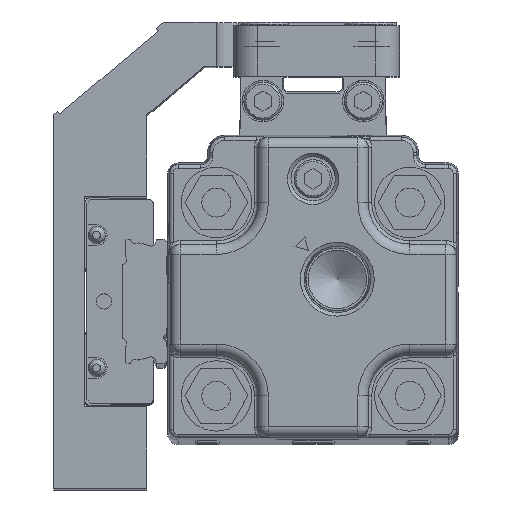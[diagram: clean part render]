
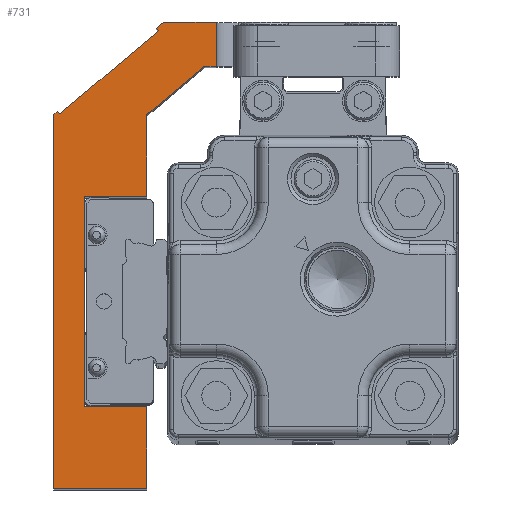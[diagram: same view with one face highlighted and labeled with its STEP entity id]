
A CAD part, top view. The second image highlights one B-rep face of the part: STEP entity #731.
In plain terms, the highlighted planar face has unit normal (0, 0, 1).
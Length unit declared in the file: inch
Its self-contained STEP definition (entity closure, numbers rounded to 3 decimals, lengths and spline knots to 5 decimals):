
#731 = ADVANCED_FACE ( 'NONE', ( #3522 ), #43899, .F. ) ;
#746 = ORIENTED_EDGE ( 'NONE', *, *, #33221, .F. ) ;
#1067 = VECTOR ( 'NONE', #40331, 39.37008 ) ;
#1228 = LINE ( 'NONE', #27089, #16177 ) ;
#1313 = EDGE_LOOP ( 'NONE', ( #34958, #32871, #23349, #6613, #5635, #10449, #38573, #37243, #6528, #30139, #29870, #24048, #37004, #746, #32143, #28993 ) ) ;
#1503 = VECTOR ( 'NONE', #17119, 39.37008 ) ;
#1643 = CARTESIAN_POINT ( 'NONE',  ( 1.047, 0.217, 2.65748 ) ) ;
#1656 = CARTESIAN_POINT ( 'NONE',  ( 1.55371, -0.38687, 2.65748 ) ) ;
#1949 = DIRECTION ( 'NONE',  ( 1., 0., 0. ) ) ;
#2776 = DIRECTION ( 'NONE',  ( 1., 0., 0. ) ) ;
#3058 = EDGE_CURVE ( 'NONE', #31763, #34768, #26482, .T. ) ;
#3522 = FACE_OUTER_BOUND ( 'NONE', #1313, .T. ) ;
#5292 = VERTEX_POINT ( 'NONE', #1656 ) ;
#5635 = ORIENTED_EDGE ( 'NONE', *, *, #35392, .F. ) ;
#5716 = VERTEX_POINT ( 'NONE', #34918 ) ;
#5752 = DIRECTION ( 'NONE',  ( -0.643, 0.766, 0. ) ) ;
#5869 = VERTEX_POINT ( 'NONE', #43588 ) ;
#5893 = LINE ( 'NONE', #10460, #19549 ) ;
#6515 = DIRECTION ( 'NONE',  ( 0., -1., 0. ) ) ;
#6528 = ORIENTED_EDGE ( 'NONE', *, *, #14922, .F. ) ;
#6539 = VECTOR ( 'NONE', #16998, 39.37008 ) ;
#6613 = ORIENTED_EDGE ( 'NONE', *, *, #28849, .T. ) ;
#6785 = VERTEX_POINT ( 'NONE', #29708 ) ;
#7608 = CARTESIAN_POINT ( 'NONE',  ( -0.59791, 0.02, 2.65748 ) ) ;
#7820 = VECTOR ( 'NONE', #21715, 39.37008 ) ;
#8353 = DIRECTION ( 'NONE',  ( 0., -1., 0. ) ) ;
#8832 = VERTEX_POINT ( 'NONE', #36804 ) ;
#10170 = CARTESIAN_POINT ( 'NONE',  ( 1.06305, -0.334, 2.65748 ) ) ;
#10347 = CARTESIAN_POINT ( 'NONE',  ( 1.53863, -0.39952, 2.65748 ) ) ;
#10449 = ORIENTED_EDGE ( 'NONE', *, *, #3058, .F. ) ;
#10460 = CARTESIAN_POINT ( 'NONE',  ( 1.58906, -0.72838, 2.65748 ) ) ;
#11553 = LINE ( 'NONE', #26325, #11594 ) ;
#11594 = VECTOR ( 'NONE', #29495, 39.37008 ) ;
#12739 = EDGE_CURVE ( 'NONE', #6785, #12900, #17140, .T. ) ;
#12808 = LINE ( 'NONE', #31456, #26739 ) ;
#12900 = VERTEX_POINT ( 'NONE', #29735 ) ;
#13309 = DIRECTION ( 'NONE',  ( 0.766, 0.643, 0. ) ) ;
#13735 = CARTESIAN_POINT ( 'NONE',  ( -1.063, -0.334, 2.65748 ) ) ;
#14922 = EDGE_CURVE ( 'NONE', #6785, #15610, #12808, .T. ) ;
#15255 = CARTESIAN_POINT ( 'NONE',  ( 1.339, -0.66287, 2.65748 ) ) ;
#15610 = VERTEX_POINT ( 'NONE', #21935 ) ;
#16177 = VECTOR ( 'NONE', #16672, 39.37008 ) ;
#16342 = CARTESIAN_POINT ( 'NONE',  ( 1.06727, 0.16221, 2.65748 ) ) ;
#16454 = DIRECTION ( 'NONE',  ( -0.643, 0.766, 0. ) ) ;
#16672 = DIRECTION ( 'NONE',  ( 0., -1., 0. ) ) ;
#16880 = VERTEX_POINT ( 'NONE', #30644 ) ;
#16998 = DIRECTION ( 'NONE',  ( 0., 1., 0. ) ) ;
#17119 = DIRECTION ( 'NONE',  ( 0., 1., 0. ) ) ;
#17140 = LINE ( 'NONE', #13735, #45231 ) ;
#17313 = VERTEX_POINT ( 'NONE', #19672 ) ;
#18274 = DIRECTION ( 'NONE',  ( 0., 0., -1. ) ) ;
#18323 = LINE ( 'NONE', #33806, #7820 ) ;
#19059 = EDGE_CURVE ( 'NONE', #8832, #38448, #1228, .T. ) ;
#19158 = VECTOR ( 'NONE', #2776, 39.37008 ) ;
#19275 = EDGE_CURVE ( 'NONE', #5716, #31763, #11553, .T. ) ;
#19360 = DIRECTION ( 'NONE',  ( 0.643, -0.766, 0. ) ) ;
#19448 = VECTOR ( 'NONE', #5752, 39.37008 ) ;
#19549 = VECTOR ( 'NONE', #32248, 39.37008 ) ;
#19672 = CARTESIAN_POINT ( 'NONE',  ( 1.58906, -0.72838, 2.65748 ) ) ;
#20107 = EDGE_CURVE ( 'NONE', #44154, #16880, #40902, .T. ) ;
#20996 = LINE ( 'NONE', #47615, #1503 ) ;
#21715 = DIRECTION ( 'NONE',  ( 1., 0., 0. ) ) ;
#21809 = VECTOR ( 'NONE', #8353, 39.37008 ) ;
#21897 = DIRECTION ( 'NONE',  ( -1., 0., 0. ) ) ;
#21935 = CARTESIAN_POINT ( 'NONE',  ( 1.06378, 0.197, 2.65748 ) ) ;
#22753 = EDGE_CURVE ( 'NONE', #38097, #44154, #31823, .T. ) ;
#23349 = ORIENTED_EDGE ( 'NONE', *, *, #39656, .T. ) ;
#24031 = AXIS2_PLACEMENT_3D ( 'NONE', #40755, #18274, #21897 ) ;
#24048 = ORIENTED_EDGE ( 'NONE', *, *, #19059, .F. ) ;
#24531 = CARTESIAN_POINT ( 'NONE',  ( 1.58906, -0.429, 2.65748 ) ) ;
#26325 = CARTESIAN_POINT ( 'NONE',  ( 1.06727, 0.16221, 2.65748 ) ) ;
#26482 = LINE ( 'NONE', #33973, #1067 ) ;
#26739 = VECTOR ( 'NONE', #1949, 39.37008 ) ;
#26760 = LINE ( 'NONE', #41493, #21809 ) ;
#27089 = CARTESIAN_POINT ( 'NONE',  ( -0.59791, 0.02, 2.65748 ) ) ;
#27153 = VECTOR ( 'NONE', #13309, 39.37008 ) ;
#27378 = LINE ( 'NONE', #38018, #27153 ) ;
#27439 = LINE ( 'NONE', #35186, #6539 ) ;
#28662 = VECTOR ( 'NONE', #19360, 39.37008 ) ;
#28849 = EDGE_CURVE ( 'NONE', #29246, #5292, #35036, .T. ) ;
#28993 = ORIENTED_EDGE ( 'NONE', *, *, #20107, .T. ) ;
#29180 = VECTOR ( 'NONE', #16454, 39.37008 ) ;
#29246 = VERTEX_POINT ( 'NONE', #24531 ) ;
#29495 = DIRECTION ( 'NONE',  ( -0.766, -0.643, 0. ) ) ;
#29708 = CARTESIAN_POINT ( 'NONE',  ( -1.063, 0.197, 2.65748 ) ) ;
#29735 = CARTESIAN_POINT ( 'NONE',  ( -1.063, -0.334, 2.65748 ) ) ;
#29821 = EDGE_CURVE ( 'NONE', #5716, #15610, #45727, .T. ) ;
#29870 = ORIENTED_EDGE ( 'NONE', *, *, #34796, .T. ) ;
#30139 = ORIENTED_EDGE ( 'NONE', *, *, #12739, .T. ) ;
#30644 = CARTESIAN_POINT ( 'NONE',  ( 1.339, -0.66287, 2.65748 ) ) ;
#31456 = CARTESIAN_POINT ( 'NONE',  ( -1.063, 0.197, 2.65748 ) ) ;
#31763 = VERTEX_POINT ( 'NONE', #16342 ) ;
#31823 = LINE ( 'NONE', #46572, #19158 ) ;
#32143 = ORIENTED_EDGE ( 'NONE', *, *, #22753, .T. ) ;
#32248 = DIRECTION ( 'NONE',  ( 1., 0., 0. ) ) ;
#32871 = ORIENTED_EDGE ( 'NONE', *, *, #38458, .T. ) ;
#33221 = EDGE_CURVE ( 'NONE', #38097, #47036, #20996, .T. ) ;
#33259 = VECTOR ( 'NONE', #45327, 39.37008 ) ;
#33806 = CARTESIAN_POINT ( 'NONE',  ( -0.578, -0.334, 2.65748 ) ) ;
#33973 = CARTESIAN_POINT ( 'NONE',  ( 1.53863, -0.39952, 2.65748 ) ) ;
#34768 = VERTEX_POINT ( 'NONE', #10347 ) ;
#34796 = EDGE_CURVE ( 'NONE', #12900, #38448, #18323, .T. ) ;
#34918 = CARTESIAN_POINT ( 'NONE',  ( 1.08235, 0.17487, 2.65748 ) ) ;
#34958 = ORIENTED_EDGE ( 'NONE', *, *, #47038, .T. ) ;
#35036 = LINE ( 'NONE', #1643, #19448 ) ;
#35178 = CARTESIAN_POINT ( 'NONE',  ( -0.59791, -0.334, 2.65748 ) ) ;
#35186 = CARTESIAN_POINT ( 'NONE',  ( 1.58906, -0.429, 2.65748 ) ) ;
#35392 = EDGE_CURVE ( 'NONE', #34768, #5292, #27378, .T. ) ;
#36804 = CARTESIAN_POINT ( 'NONE',  ( -0.59791, 0.02, 2.65748 ) ) ;
#37004 = ORIENTED_EDGE ( 'NONE', *, *, #43379, .F. ) ;
#37243 = ORIENTED_EDGE ( 'NONE', *, *, #29821, .T. ) ;
#37603 = LINE ( 'NONE', #7608, #33259 ) ;
#38018 = CARTESIAN_POINT ( 'NONE',  ( 1.55371, -0.38687, 2.65748 ) ) ;
#38097 = VERTEX_POINT ( 'NONE', #42452 ) ;
#38448 = VERTEX_POINT ( 'NONE', #35178 ) ;
#38458 = EDGE_CURVE ( 'NONE', #5869, #17313, #5893, .T. ) ;
#38573 = ORIENTED_EDGE ( 'NONE', *, *, #19275, .F. ) ;
#39656 = EDGE_CURVE ( 'NONE', #17313, #29246, #27439, .T. ) ;
#40331 = DIRECTION ( 'NONE',  ( 0.643, -0.766, 0. ) ) ;
#40755 = CARTESIAN_POINT ( 'NONE',  ( 1.58906, 0., 2.65748 ) ) ;
#40902 = LINE ( 'NONE', #15255, #28662 ) ;
#41493 = CARTESIAN_POINT ( 'NONE',  ( 1.339, -1.752, 2.65748 ) ) ;
#42452 = CARTESIAN_POINT ( 'NONE',  ( 0.59791, -0.334, 2.65748 ) ) ;
#43379 = EDGE_CURVE ( 'NONE', #47036, #8832, #37603, .T. ) ;
#43588 = CARTESIAN_POINT ( 'NONE',  ( 1.339, -0.72838, 2.65748 ) ) ;
#43899 = PLANE ( 'NONE',  #24031 ) ;
#44154 = VERTEX_POINT ( 'NONE', #10170 ) ;
#44369 = CARTESIAN_POINT ( 'NONE',  ( 1.047, 0.217, 2.65748 ) ) ;
#45134 = CARTESIAN_POINT ( 'NONE',  ( 0.59791, 0.02, 2.65748 ) ) ;
#45231 = VECTOR ( 'NONE', #6515, 39.37008 ) ;
#45327 = DIRECTION ( 'NONE',  ( -1., 0., 0. ) ) ;
#45727 = LINE ( 'NONE', #44369, #29180 ) ;
#46572 = CARTESIAN_POINT ( 'NONE',  ( 0.578, -0.334, 2.65748 ) ) ;
#47036 = VERTEX_POINT ( 'NONE', #45134 ) ;
#47038 = EDGE_CURVE ( 'NONE', #16880, #5869, #26760, .T. ) ;
#47615 = CARTESIAN_POINT ( 'NONE',  ( 0.59791, 0.02, 2.65748 ) ) ;
